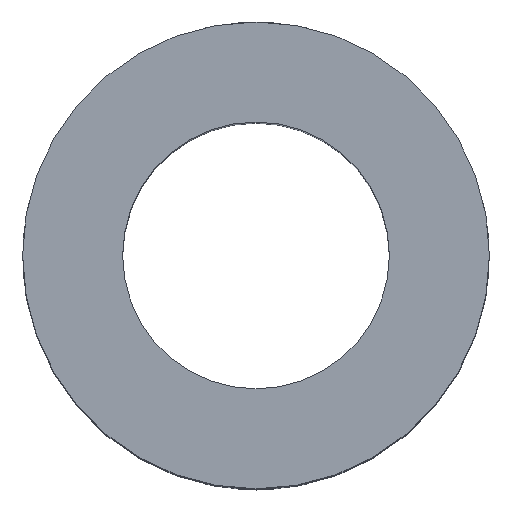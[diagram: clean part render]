
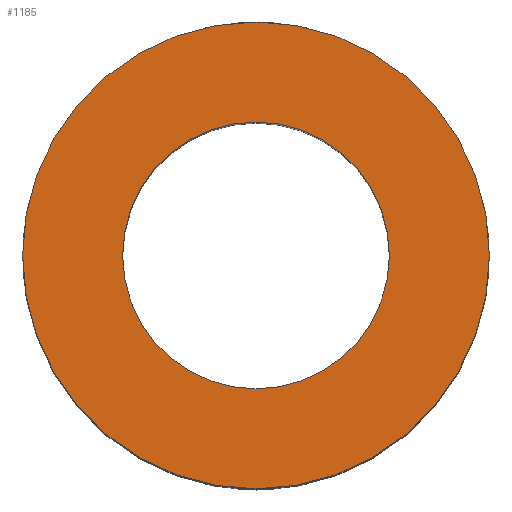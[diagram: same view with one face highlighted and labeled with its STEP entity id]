
A CAD part, top view. The second image highlights one B-rep face of the part: STEP entity #1185.
In plain terms, the highlighted planar face has unit normal (0, 0, 1).
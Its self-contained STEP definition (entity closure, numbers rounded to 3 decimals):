
#51=CARTESIAN_POINT('',(-11.113,0.,31.5));
#52=VERTEX_POINT('',#51);
#68=CARTESIAN_POINT('',(11.113,0.,31.5));
#69=VERTEX_POINT('',#68);
#76=CARTESIAN_POINT('',(0.0,0.0,31.5));
#77=DIRECTION('',(0.0,0.0,-1.0));
#78=DIRECTION('',(-1.0,0.0,0.0));
#79=AXIS2_PLACEMENT_3D('',#76,#77,#78);
#80=CIRCLE('',#79,11.113);
#81=EDGE_CURVE('',#69,#52,#80,.T.);
#91=CARTESIAN_POINT('',(-6.35,0.,31.5));
#92=VERTEX_POINT('',#91);
#101=CARTESIAN_POINT('',(6.35,0.,31.5));
#102=VERTEX_POINT('',#101);
#103=CARTESIAN_POINT('',(0.0,0.0,31.5));
#104=DIRECTION('',(0.0,0.0,-1.0));
#105=DIRECTION('',(-1.0,0.0,0.0));
#106=AXIS2_PLACEMENT_3D('',#103,#104,#105);
#107=CIRCLE('',#106,6.35);
#108=EDGE_CURVE('',#102,#92,#107,.T.);
#1144=CARTESIAN_POINT('',(0.0,0.0,31.5));
#1145=DIRECTION('',(0.0,0.0,-1.0));
#1146=DIRECTION('',(-1.0,0.0,0.0));
#1147=AXIS2_PLACEMENT_3D('',#1144,#1145,#1146);
#1148=CIRCLE('',#1147,6.35);
#1149=EDGE_CURVE('',#92,#102,#1148,.T.);
#1160=CARTESIAN_POINT('',(0.0,0.0,31.5));
#1161=DIRECTION('',(0.0,0.0,-1.0));
#1162=DIRECTION('',(-1.0,0.0,0.0));
#1163=AXIS2_PLACEMENT_3D('',#1160,#1161,#1162);
#1164=CIRCLE('',#1163,11.113);
#1165=EDGE_CURVE('',#52,#69,#1164,.T.);
#1172=CARTESIAN_POINT('',(0.0,0.0,31.5));
#1173=DIRECTION('',(0.0,0.0,-1.0));
#1174=DIRECTION('',(-1.0,0.0,0.0));
#1175=AXIS2_PLACEMENT_3D('',#1172,#1173,#1174);
#1176=PLANE('',#1175);
#1177=ORIENTED_EDGE('',*,*,#81,.F.);
#1178=ORIENTED_EDGE('',*,*,#1165,.F.);
#1179=EDGE_LOOP('',(#1177,#1178));
#1180=FACE_OUTER_BOUND('',#1179,.T.);
#1181=ORIENTED_EDGE('',*,*,#108,.T.);
#1182=ORIENTED_EDGE('',*,*,#1149,.T.);
#1183=EDGE_LOOP('',(#1181,#1182));
#1184=FACE_BOUND('',#1183,.T.);
#1185=ADVANCED_FACE('',(#1180,#1184),#1176,.F.);
